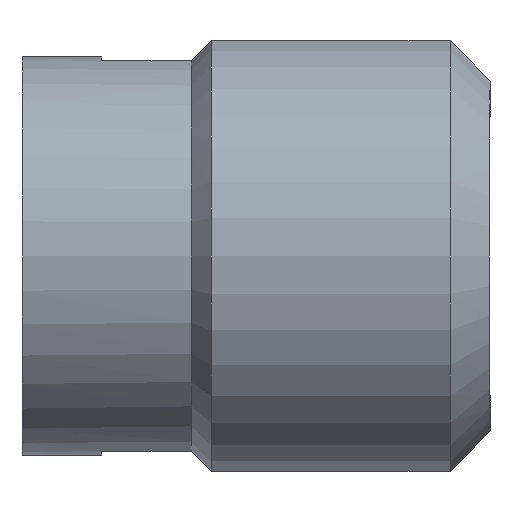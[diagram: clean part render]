
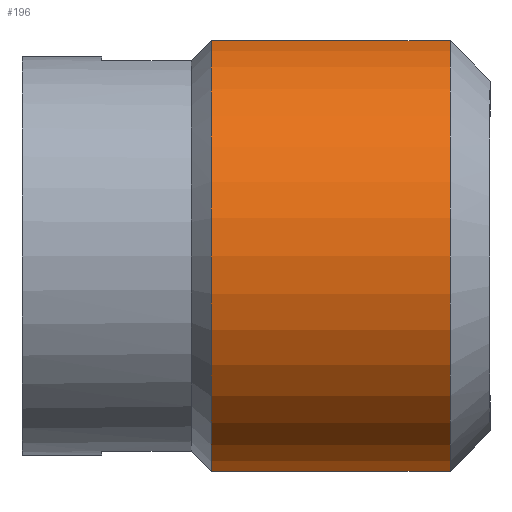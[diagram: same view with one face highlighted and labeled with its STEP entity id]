
A CAD part, front view. The second image highlights one B-rep face of the part: STEP entity #196.
In plain terms, the highlighted cylindrical face has radius 2.2 mm (diameter 4.4 mm), a partial arc.
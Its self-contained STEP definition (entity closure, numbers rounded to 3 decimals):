
#4 = CARTESIAN_POINT ( 'NONE',  ( -0.4, 0., 0. ) ) ;
#12 = CARTESIAN_POINT ( 'NONE',  ( -2.8, -0.4, 2.163 ) ) ;
#16 = CARTESIAN_POINT ( 'NONE',  ( 11.788, -0.4, -2.163 ) ) ;
#51 = ORIENTED_EDGE ( 'NONE', *, *, #682, .F. ) ;
#56 = VERTEX_POINT ( 'NONE', #452 ) ;
#73 = CARTESIAN_POINT ( 'NONE',  ( -0.4, -0.4, -2.163 ) ) ;
#82 = CYLINDRICAL_SURFACE ( 'NONE', #499, 2.2 ) ;
#123 = CIRCLE ( 'NONE', #308, 2.2 ) ;
#128 = CARTESIAN_POINT ( 'NONE',  ( -0.4, -0.4, 2.163 ) ) ;
#137 = CIRCLE ( 'NONE', #181, 2.2 ) ;
#141 = EDGE_LOOP ( 'NONE', ( #51, #593, #555, #637 ) ) ;
#160 = VERTEX_POINT ( 'NONE', #128 ) ;
#181 = AXIS2_PLACEMENT_3D ( 'NONE', #4, #517, #314 ) ;
#196 = ADVANCED_FACE ( 'NONE', ( #665 ), #82, .T. ) ;
#301 = VERTEX_POINT ( 'NONE', #12 ) ;
#308 = AXIS2_PLACEMENT_3D ( 'NONE', #513, #510, #774 ) ;
#314 = DIRECTION ( 'NONE',  ( 0., 0., -1. ) ) ;
#358 = EDGE_CURVE ( 'NONE', #301, #160, #764, .T. ) ;
#452 = CARTESIAN_POINT ( 'NONE',  ( -2.8, -0.4, -2.163 ) ) ;
#468 = DIRECTION ( 'NONE',  ( 1., 0., 0. ) ) ;
#499 = AXIS2_PLACEMENT_3D ( 'NONE', #798, #468, #805 ) ;
#510 = DIRECTION ( 'NONE',  ( 1., 0., 0. ) ) ;
#513 = CARTESIAN_POINT ( 'NONE',  ( -2.8, 0., 0. ) ) ;
#517 = DIRECTION ( 'NONE',  ( -1., 0., 0. ) ) ;
#524 = DIRECTION ( 'NONE',  ( -1., 0., 0. ) ) ;
#555 = ORIENTED_EDGE ( 'NONE', *, *, #358, .F. ) ;
#566 = VECTOR ( 'NONE', #524, 1000. ) ;
#577 = VECTOR ( 'NONE', #683, 1000. ) ;
#585 = EDGE_CURVE ( 'NONE', #301, #56, #123, .T. ) ;
#593 = ORIENTED_EDGE ( 'NONE', *, *, #650, .T. ) ;
#631 = CARTESIAN_POINT ( 'NONE',  ( 11.788, -0.4, 2.163 ) ) ;
#637 = ORIENTED_EDGE ( 'NONE', *, *, #585, .T. ) ;
#650 = EDGE_CURVE ( 'NONE', #785, #160, #137, .T. ) ;
#665 = FACE_OUTER_BOUND ( 'NONE', #141, .T. ) ;
#682 = EDGE_CURVE ( 'NONE', #785, #56, #797, .T. ) ;
#683 = DIRECTION ( 'NONE',  ( 1., 0., 0. ) ) ;
#764 = LINE ( 'NONE', #631, #577 ) ;
#774 = DIRECTION ( 'NONE',  ( 0., 0., -1. ) ) ;
#785 = VERTEX_POINT ( 'NONE', #73 ) ;
#797 = LINE ( 'NONE', #16, #566 ) ;
#798 = CARTESIAN_POINT ( 'NONE',  ( 11.788, 0., 0. ) ) ;
#805 = DIRECTION ( 'NONE',  ( 0., 0., -1. ) ) ;
